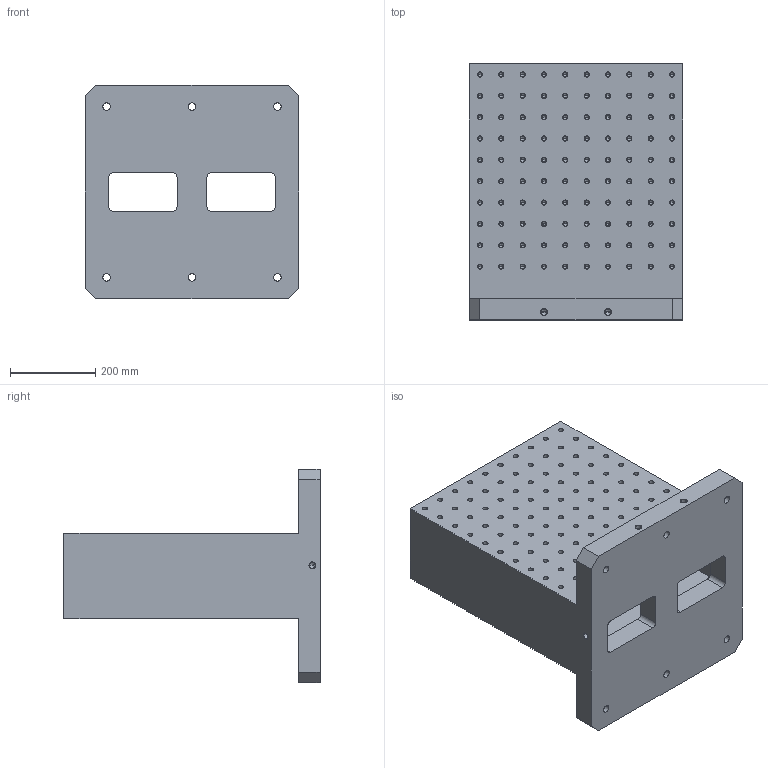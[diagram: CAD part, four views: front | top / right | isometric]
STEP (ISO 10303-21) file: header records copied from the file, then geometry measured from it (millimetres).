
FILE_DESCRIPTION((''),'2;1');
FILE_NAME('FG_WH_TOMB_RCGRDNP004','2026-05-20T15:43:37',('Admin'),(''),'CREO PARAMETRIC BY PTC INC, 2025010','CREO PARAMETRIC BY PTC INC, 2025010','');
FILE_SCHEMA(('CONFIG_CONTROL_DESIGN'));
Length unit declared in the file: millimetre
Products named in the file (1): FG_WH_TOMB_RCGRDNP004
Bounding box: 500 x 600 x 500 mm (x, y, z)
Volume: 42007985.4 mm3; surface area: 2420191.2 mm2
Topology: 1 solids, 205 shells, 2129 faces, 5144 edges, 3227 vertices
Faces by surface type: cylinder 1264, plane 459, cone 406
Entity records: 60307 total; most frequent: DIRECTION 11934, CARTESIAN_POINT 10095, ORIENTED_EDGE 8660, AXIS2_PLACEMENT_3D 5066, EDGE_CURVE 4738, VERTEX_POINT 3227, CIRCLE 2936, EDGE_LOOP 2767
